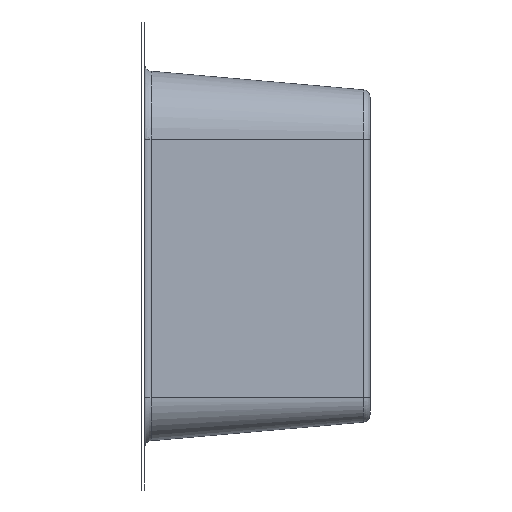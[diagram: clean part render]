
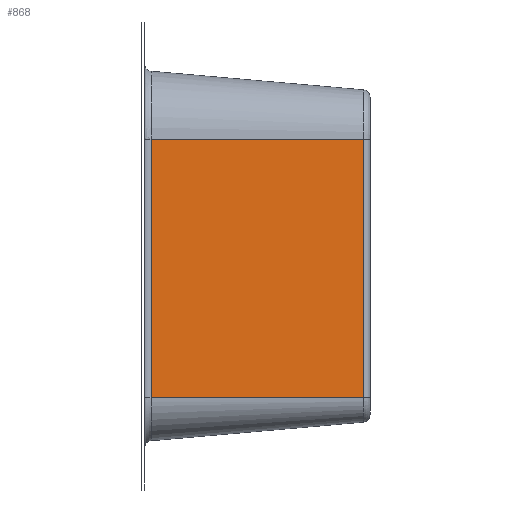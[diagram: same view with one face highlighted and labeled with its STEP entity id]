
A CAD part, left-side view. The second image highlights one B-rep face of the part: STEP entity #868.
In plain terms, the highlighted free-form (B-spline) face has degree [5, 1] with [6, 2] control points.
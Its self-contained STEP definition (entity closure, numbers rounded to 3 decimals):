
#273=CARTESIAN_POINT('Vertex',(-0.24,2.739,116.)) ;
#276=CARTESIAN_POINT('Line Origine',(-0.24,2.739,69.136)) ;
#280=CARTESIAN_POINT('Vertex',(-0.24,2.739,10.)) ;
#822=CARTESIAN_POINT('Control Point',(-8.105,92.646,10.)) ;
#823=CARTESIAN_POINT('Control Point',(0.,0.,10.)) ;
#824=CARTESIAN_POINT('Control Point',(-8.105,92.646,31.2)) ;
#825=CARTESIAN_POINT('Control Point',(0.,0.,31.2)) ;
#826=CARTESIAN_POINT('Control Point',(-8.105,92.646,52.4)) ;
#827=CARTESIAN_POINT('Control Point',(0.,0.,52.4)) ;
#828=CARTESIAN_POINT('Control Point',(-8.105,92.646,73.6)) ;
#829=CARTESIAN_POINT('Control Point',(0.,0.,73.6)) ;
#830=CARTESIAN_POINT('Control Point',(-8.105,92.646,94.8)) ;
#831=CARTESIAN_POINT('Control Point',(0.,0.,94.8)) ;
#832=CARTESIAN_POINT('Control Point',(-8.105,92.646,116.)) ;
#833=CARTESIAN_POINT('Control Point',(0.,0.,116.)) ;
#835=CARTESIAN_POINT('Control Point',(-7.866,89.908,116.)) ;
#836=CARTESIAN_POINT('Control Point',(-6.341,72.474,116.)) ;
#837=CARTESIAN_POINT('Control Point',(-4.815,55.04,116.)) ;
#838=CARTESIAN_POINT('Control Point',(-3.29,37.606,116.)) ;
#839=CARTESIAN_POINT('Control Point',(-1.765,20.172,116.)) ;
#840=CARTESIAN_POINT('Control Point',(-0.24,2.739,116.)) ;
#841=CARTESIAN_POINT('Vertex',(-7.866,89.908,116.)) ;
#845=CARTESIAN_POINT('Control Point',(-7.866,89.908,10.)) ;
#846=CARTESIAN_POINT('Control Point',(-7.866,89.908,31.2)) ;
#847=CARTESIAN_POINT('Control Point',(-7.866,89.908,52.4)) ;
#848=CARTESIAN_POINT('Control Point',(-7.866,89.908,73.6)) ;
#849=CARTESIAN_POINT('Control Point',(-7.866,89.908,94.8)) ;
#850=CARTESIAN_POINT('Control Point',(-7.866,89.908,116.)) ;
#851=CARTESIAN_POINT('Vertex',(-7.866,89.908,10.)) ;
#855=CARTESIAN_POINT('Control Point',(-7.866,89.908,10.)) ;
#856=CARTESIAN_POINT('Control Point',(-6.341,72.474,10.)) ;
#857=CARTESIAN_POINT('Control Point',(-4.815,55.04,10.)) ;
#858=CARTESIAN_POINT('Control Point',(-3.29,37.606,10.)) ;
#859=CARTESIAN_POINT('Control Point',(-1.765,20.172,10.)) ;
#860=CARTESIAN_POINT('Control Point',(-0.24,2.739,10.)) ;
#277=DIRECTION('Vector Direction',(0.,0.,1.)) ;
#863=ORIENTED_EDGE('',*,*,#282,.F.) ;
#864=ORIENTED_EDGE('',*,*,#843,.F.) ;
#865=ORIENTED_EDGE('',*,*,#853,.F.) ;
#866=ORIENTED_EDGE('',*,*,#861,.T.) ;
#278=VECTOR('Line Direction',#277,1.) ;
#868=ADVANCED_FACE('base',(#867),#821,.F.) ;
#834=B_SPLINE_CURVE_WITH_KNOTS('',5,(#835,#836,#837,#838,#839,#840),.UNSPECIFIED.,.F.,.U.,(6,6),(2.749,90.251),.UNSPECIFIED.) ;
#844=B_SPLINE_CURVE_WITH_KNOTS('',5,(#845,#846,#847,#848,#849,#850),.UNSPECIFIED.,.F.,.U.,(6,6),(0.,106.),.UNSPECIFIED.) ;
#854=B_SPLINE_CURVE_WITH_KNOTS('',5,(#855,#856,#857,#858,#859,#860),.UNSPECIFIED.,.F.,.U.,(6,6),(2.749,90.251),.UNSPECIFIED.) ;
#821=B_SPLINE_SURFACE_WITH_KNOTS('',5,1,((#822,#823),(#824,#825),(#826,#827),(#828,#829),(#830,#831),(#832,#833)),.UNSPECIFIED.,.F.,.F.,.U.,(6,6),(2,2),(0.,106.),(0.,93.),.UNSPECIFIED.) ;
#282=EDGE_CURVE('',#274,#281,#279,.F.) ;
#843=EDGE_CURVE('',#842,#274,#834,.T.) ;
#853=EDGE_CURVE('',#852,#842,#844,.T.) ;
#861=EDGE_CURVE('',#852,#281,#854,.T.) ;
#862=EDGE_LOOP('',(#863,#864,#865,#866)) ;
#867=FACE_OUTER_BOUND('',#862,.T.) ;
#279=LINE('Line',#276,#278) ;
#274=VERTEX_POINT('',#273) ;
#281=VERTEX_POINT('',#280) ;
#842=VERTEX_POINT('',#841) ;
#852=VERTEX_POINT('',#851) ;
